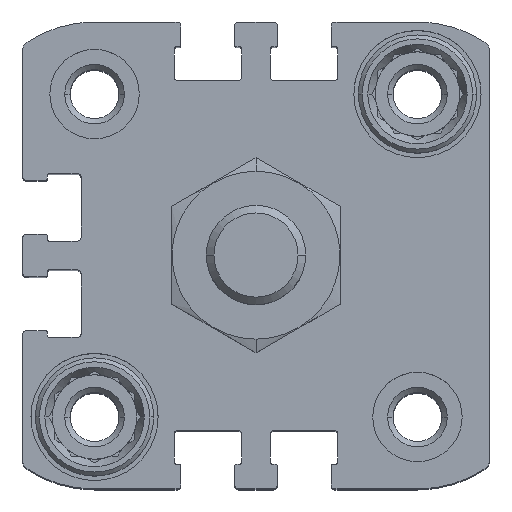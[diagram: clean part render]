
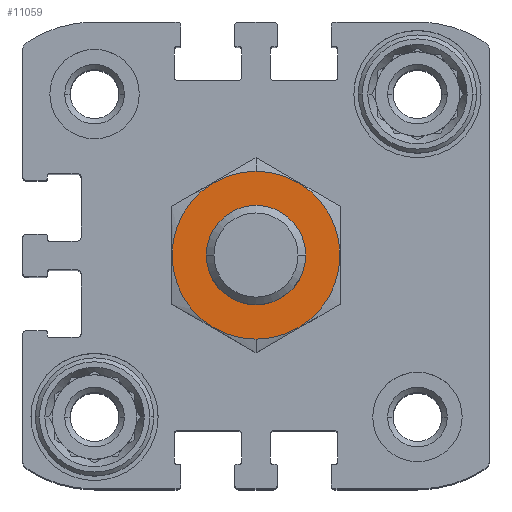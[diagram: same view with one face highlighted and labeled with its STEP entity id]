
A CAD part, top view. The second image highlights one B-rep face of the part: STEP entity #11059.
In plain terms, the highlighted planar face has unit normal (0, 0, 1).
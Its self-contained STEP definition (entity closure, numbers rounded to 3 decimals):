
#74 = DIRECTION ( 'NONE',  ( 0., 1., 0. ) ) ;
#331 = VERTEX_POINT ( 'NONE', #4907 ) ;
#515 = AXIS2_PLACEMENT_3D ( 'NONE', #15948, #2679, #6628 ) ;
#1154 = CARTESIAN_POINT ( 'NONE',  ( 0., 8.45, 15.75 ) ) ;
#1278 = PLANE ( 'NONE',  #515 ) ;
#2679 = DIRECTION ( 'NONE',  ( 0., 0., -1. ) ) ;
#3160 = CIRCLE ( 'NONE', #12669, 8.45 ) ;
#3523 = ORIENTED_EDGE ( 'NONE', *, *, #11091, .T. ) ;
#3838 = EDGE_CURVE ( 'NONE', #6248, #331, #3160, .T. ) ;
#3850 = DIRECTION ( 'NONE',  ( 0., 0., -1. ) ) ;
#3943 = DIRECTION ( 'NONE',  ( 0., 0., -1. ) ) ;
#4034 = EDGE_CURVE ( 'NONE', #331, #6248, #9871, .T. ) ;
#4062 = EDGE_LOOP ( 'NONE', ( #3523, #10291 ) ) ;
#4225 = CARTESIAN_POINT ( 'NONE',  ( 0., -5., 15.75 ) ) ;
#4336 = CIRCLE ( 'NONE', #13022, 5. ) ;
#4731 = CIRCLE ( 'NONE', #10903, 5. ) ;
#4907 = CARTESIAN_POINT ( 'NONE',  ( 0., -8.45, 15.75 ) ) ;
#5031 = CARTESIAN_POINT ( 'NONE',  ( 0., 5., 15.75 ) ) ;
#6010 = ORIENTED_EDGE ( 'NONE', *, *, #3838, .F. ) ;
#6248 = VERTEX_POINT ( 'NONE', #1154 ) ;
#6374 = FACE_OUTER_BOUND ( 'NONE', #9650, .T. ) ;
#6461 = DIRECTION ( 'NONE',  ( 0., 0., -1. ) ) ;
#6628 = DIRECTION ( 'NONE',  ( 0., 1., 0. ) ) ;
#6776 = AXIS2_PLACEMENT_3D ( 'NONE', #15241, #14179, #8667 ) ;
#8000 = VERTEX_POINT ( 'NONE', #4225 ) ;
#8667 = DIRECTION ( 'NONE',  ( 0., 1., 0. ) ) ;
#9190 = CARTESIAN_POINT ( 'NONE',  ( 0., 0., 15.75 ) ) ;
#9504 = EDGE_CURVE ( 'NONE', #13690, #8000, #4336, .T. ) ;
#9650 = EDGE_LOOP ( 'NONE', ( #6010, #11972 ) ) ;
#9871 = CIRCLE ( 'NONE', #6776, 8.45 ) ;
#10291 = ORIENTED_EDGE ( 'NONE', *, *, #9504, .T. ) ;
#10903 = AXIS2_PLACEMENT_3D ( 'NONE', #9190, #6461, #14448 ) ;
#11059 = ADVANCED_FACE ( 'NONE', ( #6374, #15848 ), #1278, .F. ) ;
#11091 = EDGE_CURVE ( 'NONE', #8000, #13690, #4731, .T. ) ;
#11972 = ORIENTED_EDGE ( 'NONE', *, *, #4034, .F. ) ;
#12092 = CARTESIAN_POINT ( 'NONE',  ( 0., 0., 15.75 ) ) ;
#12669 = AXIS2_PLACEMENT_3D ( 'NONE', #12092, #3943, #74 ) ;
#13022 = AXIS2_PLACEMENT_3D ( 'NONE', #15865, #3850, #14556 ) ;
#13690 = VERTEX_POINT ( 'NONE', #5031 ) ;
#14179 = DIRECTION ( 'NONE',  ( 0., 0., -1. ) ) ;
#14448 = DIRECTION ( 'NONE',  ( 0., 1., 0. ) ) ;
#14556 = DIRECTION ( 'NONE',  ( 0., 1., 0. ) ) ;
#15241 = CARTESIAN_POINT ( 'NONE',  ( 0., 0., 15.75 ) ) ;
#15848 = FACE_BOUND ( 'NONE', #4062, .T. ) ;
#15865 = CARTESIAN_POINT ( 'NONE',  ( 0., 0., 15.75 ) ) ;
#15948 = CARTESIAN_POINT ( 'NONE',  ( 0., 0., 15.75 ) ) ;
